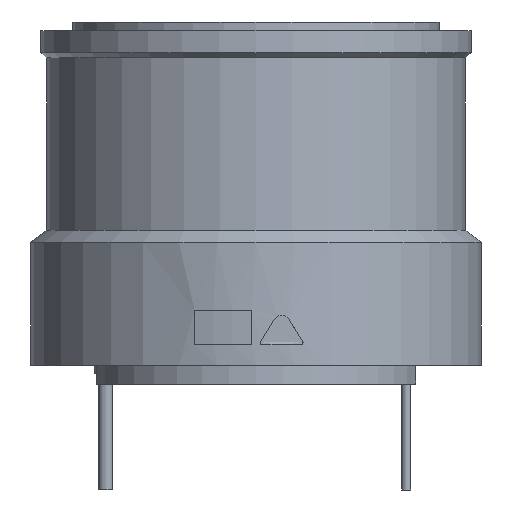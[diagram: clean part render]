
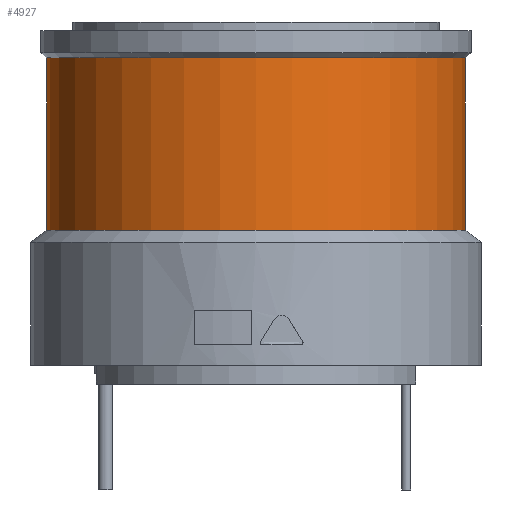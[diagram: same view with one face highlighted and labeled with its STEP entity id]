
A CAD part, left-side view. The second image highlights one B-rep face of the part: STEP entity #4927.
In plain terms, the highlighted cylindrical face has radius 122.5 mm (diameter 245 mm), a partial arc.
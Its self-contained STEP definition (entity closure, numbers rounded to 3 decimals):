
#312 = VERTEX_POINT ( 'NONE', #2020 ) ;
#317 = VERTEX_POINT ( 'NONE', #2023 ) ;
#329 = VERTEX_POINT ( 'NONE', #2035 ) ;
#331 = EDGE_CURVE ( 'NONE', #312, #329, #2036, .T. ) ;
#332 = EDGE_CURVE ( 'NONE', #333, #317, #2027, .T. ) ;
#333 = VERTEX_POINT ( 'NONE', #2037 ) ;
#2020 = CARTESIAN_POINT ( 'NONE',  ( 0., -122.5, 191. ) ) ;
#2023 = CARTESIAN_POINT ( 'NONE',  ( 0., 122.5, 90. ) ) ;
#2026 = VECTOR ( 'NONE', #2040, 1000. ) ;
#2027 = LINE ( 'NONE', #2083, #2082 ) ;
#2033 = CARTESIAN_POINT ( 'NONE',  ( 0., -122.5, -72.556 ) ) ;
#2035 = CARTESIAN_POINT ( 'NONE',  ( 0., -122.5, 90. ) ) ;
#2036 = LINE ( 'NONE', #2033, #2026 ) ;
#2037 = CARTESIAN_POINT ( 'NONE',  ( 0., 122.5, 191. ) ) ;
#2040 = DIRECTION ( 'NONE',  ( 0., 0., -1. ) ) ;
#2081 = DIRECTION ( 'NONE',  ( 0., 0., -1. ) ) ;
#2082 = VECTOR ( 'NONE', #2081, 1000. ) ;
#2083 = CARTESIAN_POINT ( 'NONE',  ( 0., 122.5, -72.556 ) ) ;
#4093 = CIRCLE ( 'NONE', #4140, 122.5 ) ;
#4094 = FACE_OUTER_BOUND ( 'NONE', #4916, .T. ) ;
#4132 = AXIS2_PLACEMENT_3D ( 'NONE', #4186, #4185, #4184 ) ;
#4138 = DIRECTION ( 'NONE',  ( 0., 1., 0. ) ) ;
#4139 = DIRECTION ( 'NONE',  ( 0., 0., -1. ) ) ;
#4140 = AXIS2_PLACEMENT_3D ( 'NONE', #4149, #4139, #4138 ) ;
#4141 = CYLINDRICAL_SURFACE ( 'NONE', #4132, 122.5 ) ;
#4149 = CARTESIAN_POINT ( 'NONE',  ( 0., 0., 90. ) ) ;
#4170 = DIRECTION ( 'NONE',  ( 0., 1., 0. ) ) ;
#4171 = DIRECTION ( 'NONE',  ( 0., 0., -1. ) ) ;
#4178 = AXIS2_PLACEMENT_3D ( 'NONE', #4188, #4171, #4170 ) ;
#4181 = CIRCLE ( 'NONE', #4178, 122.5 ) ;
#4184 = DIRECTION ( 'NONE',  ( 0., 1., 0. ) ) ;
#4185 = DIRECTION ( 'NONE',  ( 0., 0., -1. ) ) ;
#4186 = CARTESIAN_POINT ( 'NONE',  ( 0., 0., -72.556 ) ) ;
#4188 = CARTESIAN_POINT ( 'NONE',  ( 0., 0., 191. ) ) ;
#4916 = EDGE_LOOP ( 'NONE', ( #4922, #4921, #4932, #4926 ) ) ;
#4917 = EDGE_CURVE ( 'NONE', #329, #317, #4093, .T. ) ;
#4921 = ORIENTED_EDGE ( 'NONE', *, *, #4938, .T. ) ;
#4922 = ORIENTED_EDGE ( 'NONE', *, *, #331, .F. ) ;
#4926 = ORIENTED_EDGE ( 'NONE', *, *, #4917, .F. ) ;
#4927 = ADVANCED_FACE ( 'NONE', ( #4094 ), #4141, .T. ) ;
#4932 = ORIENTED_EDGE ( 'NONE', *, *, #332, .T. ) ;
#4938 = EDGE_CURVE ( 'NONE', #312, #333, #4181, .T. ) ;
